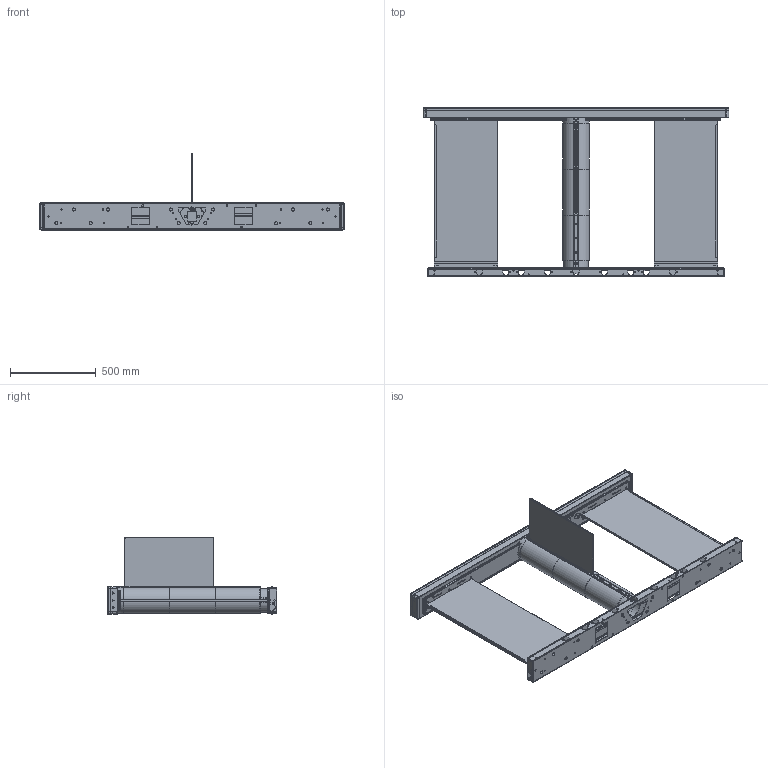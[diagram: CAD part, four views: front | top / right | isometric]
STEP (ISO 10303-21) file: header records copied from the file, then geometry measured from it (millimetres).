
FILE_DESCRIPTION (( 'STEP AP214' ), '1' );
FILE_NAME ('ユニ_サイドM【標準】.STEP', '2023-02-27T04:33:09', ( 'cadcl' ), ( 'Hewlett-Packard Company' ), 'SwSTEP 2.0', 'SolidWorks 2022', '' );
FILE_SCHEMA (( 'AUTOMOTIVE_DESIGN' ));
Length unit declared in the file: millimetre
Products named in the file (56): 201-06315-31; 201-06203-15; 201-06515-18_閉扉; 201-06316-62_解錠; 201-06316-32; 201-06515-73; 201-06515-67; Z07-00042-00_２．３：２．３; 201-06203-13; 201-06316-25; Z07-00047-00_かしめ４．１ｍｍ; 201-06315-66; 201-06315-04; 201-06515-70; 201-06515-50; 201-06315-18; 201-06515-74; 201-06203-14; 201-06203-55; 201-06515-65; 201-06313-34; Z01-00618-00; 201-06515-68; Z03-00734-00; 201-06527-42; 201-06315-57; 201-06315-68; 201-06515-38; 201-06315-00_デフォルト; 201-06316-23; 201-06203-11; 301-06197-01_解錠; 201-06515-71; 201-06203-16; 201-06515-66; ユニ_サイドM【標準】; 201-06315-02; 201-06515-85; 201-06515-51; 201-06315-32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
Assembly tree (132 placements, depth 4):
  ユニ_サイドM【標準】
    201-06515-38
      201-06515-50
        201-06515-51
        201-06515-84
        201-06515-85
        Z01-00599-00  x12
      201-06316-32
        201-06313-34
      201-06316-25
        201-06203-15
        201-06203-14
      201-06316-33
        201-06203-15
        201-06203-14
      201-06316-23
        201-06210-58
      201-06316-62_解錠
        201-06316-63
        Z07-00047-00_かしめ４．１ｍｍ  x4
        301-06197-01_解錠
      201-06203-13  x2
      201-06203-16
    201-06515-18_閉扉
      201-06313-87
      201-06515-65
      201-06515-66
        201-06515-67
        201-06527-41
      201-06527-42
        201-06315-57
        201-06527-43
      201-06316-64  x2
      201-06515-68  x2
      201-06515-69_上位アセンブリ用  x2
        201-06515-70
      201-06515-71  x2
      201-06515-73  x4
      201-06515-74
      Z03-00854-00  x6
      Z01-00618-00  x16
    201-06315-00_デフォルト
      201-06312-02
      201-06315-02  x2
        201-06315-66
        201-06204-73
        201-06203-11
      201-06315-04  x2
        201-06315-67
        201-06204-73
        201-06203-11
      201-06315-68  x2
      201-06315-69  x2
      Z03-00734-00  x19
      Z07-00042-00_２．３：２．３  x8
    201-06315-18  x2
      201-06315-19
    201-06315-31  x2
      201-06315-32
    201-06203-55
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Bounding box: 1780 x 985 x 446.1 mm (x, y, z)
Volume: 14014808.6 mm3; surface area: 6191039.9 mm2
Topology: 120 solids, 120 shells, 4324 faces, 10847 edges, 6916 vertices
Faces by surface type: plane 2284, cylinder 1695, cone 213, torus 102, bspline 30
Entity records: 78555 total; most frequent: CARTESIAN_POINT 14005, DIRECTION 13334, ORIENTED_EDGE 12596, EDGE_CURVE 6298, AXIS2_PLACEMENT_3D 4685, VERTEX_POINT 4054, LINE 3964, VECTOR 3964
